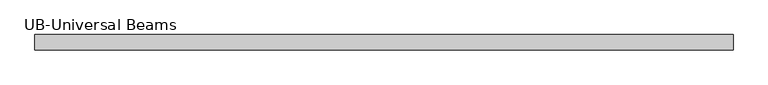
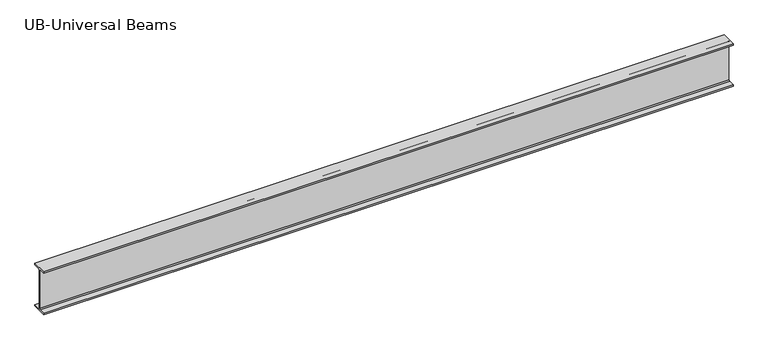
"""IFC4 building model written with IfcOpenShell, lengths in millimetres: beam geometry."""

from ifc_helpers import new_model, si_unit, point, frame, frame_2d, origin, place, context, project, spatial, polyline, circle_curve, trimmed, segment, composite_curve, outline, extrude, source, transform, mapped, element, save


def ub_universal_beams_f6859559(model_context):
    return source(origin(), model_context, "Body", "SweptSolid", [
        extrude(outline(composite_curve([segment(polyline([(76.9, -214.0), (76.9, -229.0), (-76.9, -229.0), (-76.9, -214.0), (-14.7, -214.0)]), True, "CONTINUOUS"), segment(trimmed(circle_curve(frame_2d((-14.7, -203.8)), 10.2), [point((-14.7, -214.0))], [point((-4.5, -203.8))], True, "CARTESIAN"), True, "CONTINUOUS"), segment(polyline([(-4.5, -203.8), (-4.5, 203.8)]), True, "CONTINUOUS"), segment(trimmed(circle_curve(frame_2d((-14.7, 203.8)), 10.2), [point((-4.5, 203.8))], [point((-14.7, 214.0))], True, "CARTESIAN"), True, "CONTINUOUS"), segment(polyline([(-14.7, 214.0), (-76.9, 214.0), (-76.9, 229.0), (76.9, 229.0), (76.9, 214.0), (14.7, 214.0)]), True, "CONTINUOUS"), segment(trimmed(circle_curve(frame_2d((14.7, 203.8)), 10.2), [point((14.7, 214.0))], [point((4.5, 203.8))], True, "CARTESIAN"), True, "CONTINUOUS"), segment(polyline([(4.5, 203.8), (4.5, -203.8)]), True, "CONTINUOUS"), segment(trimmed(circle_curve(frame_2d((14.7, -203.8)), 10.2), [point((4.5, -203.8))], [point((14.7, -214.0))], True, "CARTESIAN"), True, "CONTINUOUS"), segment(polyline([(14.7, -214.0), (76.9, -214.0)]), True, "CONTINUOUS")], self_intersect=False)), frame((-3536.15, 0.0, 0.0), z_axis=(1.0, 0.0, 0.0), x_axis=(0.0, 1.0, 0.0)), (0.0, 0.0, 1.0), 6986.4),
    ])


if __name__ == "__main__":
    model = new_model("IFC4")
    model_context = context("Model", 3, world=origin())
    ifc_project = project(units=[si_unit("LENGTHUNIT", "METRE", prefix="MILLI")], contexts=[model_context])
    site = spatial("IfcSite", under=ifc_project)
    building = spatial("IfcBuilding", under=site)
    placement = place(None, origin())
    ub_universal_beams_shape = ub_universal_beams_f6859559(model_context)
    element("IfcBeam", 1, ObjectType="UB-Universal Beams : UB 18\" x 6\" x 2 1/2\"", at=placement, inside=building, context=model_context, shape_type="MappedRepresentation", body=[
        mapped(ub_universal_beams_shape, transform((0.0, 0.0, 0.0), x_axis=(1.0, 0.0, 0.0), y_axis=(0.0, 1.0, 0.0), z_axis=(0.0, 0.0, 1.0))),
    ])
    save(model, "model.ifc")
